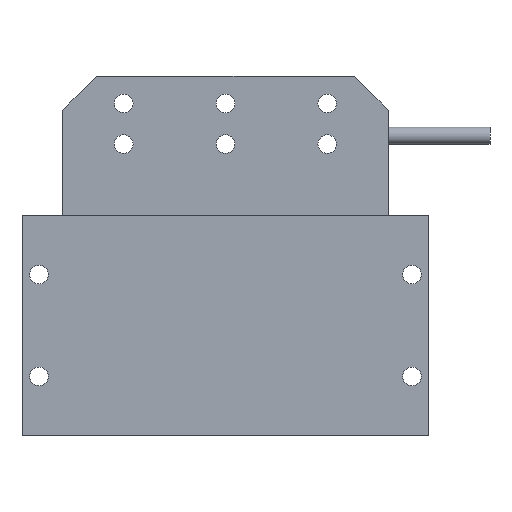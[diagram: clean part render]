
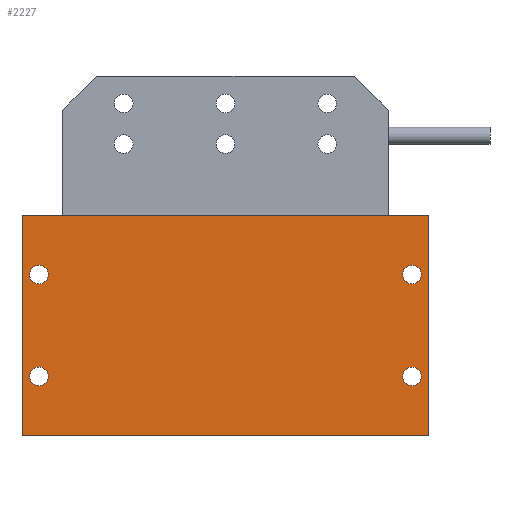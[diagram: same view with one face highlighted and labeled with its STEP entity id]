
A CAD part, front view. The second image highlights one B-rep face of the part: STEP entity #2227.
In plain terms, the highlighted planar face has unit normal (0, -1, 0).
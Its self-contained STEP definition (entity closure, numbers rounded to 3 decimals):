
#29 = EDGE_CURVE ( 'NONE', #399, #848, #392, .T. ) ;
#31 = DIRECTION ( 'NONE',  ( 0., 1., 0. ) ) ;
#35 = CARTESIAN_POINT ( 'NONE',  ( 55., -21.25, 17.5 ) ) ;
#36 = ORIENTED_EDGE ( 'NONE', *, *, #2285, .T. ) ;
#46 = CARTESIAN_POINT ( 'NONE',  ( 55., -21.25, 47.5 ) ) ;
#49 = DIRECTION ( 'NONE',  ( 0., 0., 1. ) ) ;
#51 = LINE ( 'NONE', #2207, #1886 ) ;
#68 = DIRECTION ( 'NONE',  ( 0., 0., -1. ) ) ;
#99 = CARTESIAN_POINT ( 'NONE',  ( 60., -21.25, 65. ) ) ;
#121 = EDGE_CURVE ( 'NONE', #965, #1480, #1988, .T. ) ;
#143 = LINE ( 'NONE', #800, #502 ) ;
#153 = DIRECTION ( 'NONE',  ( 0., 0., 1. ) ) ;
#169 = CIRCLE ( 'NONE', #1282, 2.75 ) ;
#186 = DIRECTION ( 'NONE',  ( 0., 0., 1. ) ) ;
#210 = VERTEX_POINT ( 'NONE', #865 ) ;
#220 = DIRECTION ( 'NONE',  ( 1., 0., 0. ) ) ;
#221 = FACE_BOUND ( 'NONE', #628, .T. ) ;
#223 = CIRCLE ( 'NONE', #1508, 2.75 ) ;
#226 = AXIS2_PLACEMENT_3D ( 'NONE', #2297, #1412, #1067 ) ;
#251 = CARTESIAN_POINT ( 'NONE',  ( -55., -21.25, 50.25 ) ) ;
#258 = CIRCLE ( 'NONE', #2316, 2.75 ) ;
#267 = DIRECTION ( 'NONE',  ( 0., 1., 0. ) ) ;
#272 = VERTEX_POINT ( 'NONE', #955 ) ;
#296 = ORIENTED_EDGE ( 'NONE', *, *, #2288, .T. ) ;
#300 = VERTEX_POINT ( 'NONE', #1109 ) ;
#303 = PLANE ( 'NONE',  #1174 ) ;
#312 = CARTESIAN_POINT ( 'NONE',  ( 55., -21.25, 17.5 ) ) ;
#388 = EDGE_CURVE ( 'NONE', #272, #2048, #258, .T. ) ;
#392 = CIRCLE ( 'NONE', #1169, 2.75 ) ;
#399 = VERTEX_POINT ( 'NONE', #251 ) ;
#409 = FACE_BOUND ( 'NONE', #710, .T. ) ;
#419 = CARTESIAN_POINT ( 'NONE',  ( -55., -21.25, 14.75 ) ) ;
#421 = DIRECTION ( 'NONE',  ( 0., 1., 0. ) ) ;
#425 = VERTEX_POINT ( 'NONE', #1882 ) ;
#426 = CARTESIAN_POINT ( 'NONE',  ( -55., -21.25, 44.75 ) ) ;
#461 = VERTEX_POINT ( 'NONE', #2071 ) ;
#502 = VECTOR ( 'NONE', #1177, 1000. ) ;
#626 = DIRECTION ( 'NONE',  ( 0., 0., 1. ) ) ;
#628 = EDGE_LOOP ( 'NONE', ( #1394, #36 ) ) ;
#650 = DIRECTION ( 'NONE',  ( -1., 0., 0. ) ) ;
#685 = EDGE_LOOP ( 'NONE', ( #1674, #702 ) ) ;
#701 = CARTESIAN_POINT ( 'NONE',  ( -55., -21.25, 47.5 ) ) ;
#702 = ORIENTED_EDGE ( 'NONE', *, *, #1449, .T. ) ;
#710 = EDGE_LOOP ( 'NONE', ( #2158, #1620 ) ) ;
#724 = LINE ( 'NONE', #99, #1250 ) ;
#737 = CARTESIAN_POINT ( 'NONE',  ( 60., -21.25, 0. ) ) ;
#763 = DIRECTION ( 'NONE',  ( 0., 1., 0. ) ) ;
#800 = CARTESIAN_POINT ( 'NONE',  ( 60., -21.25, 65. ) ) ;
#811 = EDGE_CURVE ( 'NONE', #210, #1035, #724, .T. ) ;
#848 = VERTEX_POINT ( 'NONE', #426 ) ;
#849 = CARTESIAN_POINT ( 'NONE',  ( 55., -21.25, 20.25 ) ) ;
#865 = CARTESIAN_POINT ( 'NONE',  ( 60., -21.25, 65. ) ) ;
#901 = CARTESIAN_POINT ( 'NONE',  ( -60., -21.25, 65. ) ) ;
#931 = DIRECTION ( 'NONE',  ( 0., 0., -1. ) ) ;
#948 = CIRCLE ( 'NONE', #2155, 2.75 ) ;
#955 = CARTESIAN_POINT ( 'NONE',  ( -55., -21.25, 20.25 ) ) ;
#961 = DIRECTION ( 'NONE',  ( 0., 0., 1. ) ) ;
#965 = VERTEX_POINT ( 'NONE', #849 ) ;
#979 = AXIS2_PLACEMENT_3D ( 'NONE', #1494, #2027, #961 ) ;
#1001 = AXIS2_PLACEMENT_3D ( 'NONE', #35, #763, #1671 ) ;
#1035 = VERTEX_POINT ( 'NONE', #1945 ) ;
#1067 = DIRECTION ( 'NONE',  ( 0., 0., 1. ) ) ;
#1109 = CARTESIAN_POINT ( 'NONE',  ( 55., -21.25, 50.25 ) ) ;
#1116 = EDGE_LOOP ( 'NONE', ( #2024, #1243, #1669, #2073 ) ) ;
#1123 = CARTESIAN_POINT ( 'NONE',  ( -55., -21.25, 47.5 ) ) ;
#1152 = CARTESIAN_POINT ( 'NONE',  ( -55., -21.25, 17.5 ) ) ;
#1169 = AXIS2_PLACEMENT_3D ( 'NONE', #701, #1617, #186 ) ;
#1174 = AXIS2_PLACEMENT_3D ( 'NONE', #1710, #1741, #650 ) ;
#1177 = DIRECTION ( 'NONE',  ( 1., 0., 0. ) ) ;
#1242 = DIRECTION ( 'NONE',  ( 0., 1., 0. ) ) ;
#1243 = ORIENTED_EDGE ( 'NONE', *, *, #811, .F. ) ;
#1250 = VECTOR ( 'NONE', #68, 1000. ) ;
#1282 = AXIS2_PLACEMENT_3D ( 'NONE', #46, #31, #1812 ) ;
#1301 = EDGE_CURVE ( 'NONE', #461, #1035, #1772, .T. ) ;
#1384 = FACE_BOUND ( 'NONE', #685, .T. ) ;
#1394 = ORIENTED_EDGE ( 'NONE', *, *, #121, .T. ) ;
#1412 = DIRECTION ( 'NONE',  ( 0., 1., 0. ) ) ;
#1431 = CIRCLE ( 'NONE', #226, 2.75 ) ;
#1449 = EDGE_CURVE ( 'NONE', #2048, #272, #1463, .T. ) ;
#1463 = CIRCLE ( 'NONE', #979, 2.75 ) ;
#1467 = EDGE_CURVE ( 'NONE', #848, #399, #223, .T. ) ;
#1480 = VERTEX_POINT ( 'NONE', #2199 ) ;
#1494 = CARTESIAN_POINT ( 'NONE',  ( -55., -21.25, 17.5 ) ) ;
#1508 = AXIS2_PLACEMENT_3D ( 'NONE', #1123, #421, #49 ) ;
#1509 = ORIENTED_EDGE ( 'NONE', *, *, #1925, .T. ) ;
#1584 = EDGE_CURVE ( 'NONE', #1727, #210, #143, .T. ) ;
#1617 = DIRECTION ( 'NONE',  ( 0., 1., 0. ) ) ;
#1620 = ORIENTED_EDGE ( 'NONE', *, *, #1467, .T. ) ;
#1628 = FACE_OUTER_BOUND ( 'NONE', #1116, .T. ) ;
#1669 = ORIENTED_EDGE ( 'NONE', *, *, #1584, .F. ) ;
#1671 = DIRECTION ( 'NONE',  ( 0., 0., 1. ) ) ;
#1674 = ORIENTED_EDGE ( 'NONE', *, *, #388, .T. ) ;
#1710 = CARTESIAN_POINT ( 'NONE',  ( 60., -21.25, 65. ) ) ;
#1727 = VERTEX_POINT ( 'NONE', #901 ) ;
#1741 = DIRECTION ( 'NONE',  ( 0., 1., 0. ) ) ;
#1772 = LINE ( 'NONE', #737, #2137 ) ;
#1812 = DIRECTION ( 'NONE',  ( 0., 0., 1. ) ) ;
#1877 = EDGE_CURVE ( 'NONE', #1727, #461, #51, .T. ) ;
#1882 = CARTESIAN_POINT ( 'NONE',  ( 55., -21.25, 44.75 ) ) ;
#1886 = VECTOR ( 'NONE', #931, 1000. ) ;
#1925 = EDGE_CURVE ( 'NONE', #425, #300, #169, .T. ) ;
#1945 = CARTESIAN_POINT ( 'NONE',  ( 60., -21.25, 0. ) ) ;
#1988 = CIRCLE ( 'NONE', #1001, 2.75 ) ;
#2024 = ORIENTED_EDGE ( 'NONE', *, *, #1301, .T. ) ;
#2027 = DIRECTION ( 'NONE',  ( 0., 1., 0. ) ) ;
#2048 = VERTEX_POINT ( 'NONE', #419 ) ;
#2071 = CARTESIAN_POINT ( 'NONE',  ( -60., -21.25, 0. ) ) ;
#2073 = ORIENTED_EDGE ( 'NONE', *, *, #1877, .T. ) ;
#2137 = VECTOR ( 'NONE', #220, 1000. ) ;
#2155 = AXIS2_PLACEMENT_3D ( 'NONE', #312, #1242, #153 ) ;
#2156 = EDGE_LOOP ( 'NONE', ( #296, #1509 ) ) ;
#2158 = ORIENTED_EDGE ( 'NONE', *, *, #29, .T. ) ;
#2199 = CARTESIAN_POINT ( 'NONE',  ( 55., -21.25, 14.75 ) ) ;
#2207 = CARTESIAN_POINT ( 'NONE',  ( -60., -21.25, 65. ) ) ;
#2227 = ADVANCED_FACE ( 'NONE', ( #1384, #409, #2280, #221, #1628 ), #303, .F. ) ;
#2280 = FACE_BOUND ( 'NONE', #2156, .T. ) ;
#2285 = EDGE_CURVE ( 'NONE', #1480, #965, #948, .T. ) ;
#2288 = EDGE_CURVE ( 'NONE', #300, #425, #1431, .T. ) ;
#2297 = CARTESIAN_POINT ( 'NONE',  ( 55., -21.25, 47.5 ) ) ;
#2316 = AXIS2_PLACEMENT_3D ( 'NONE', #1152, #267, #626 ) ;
